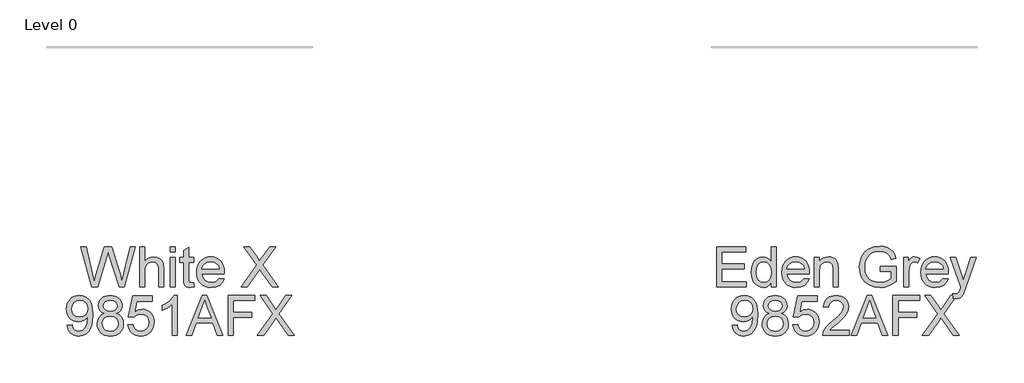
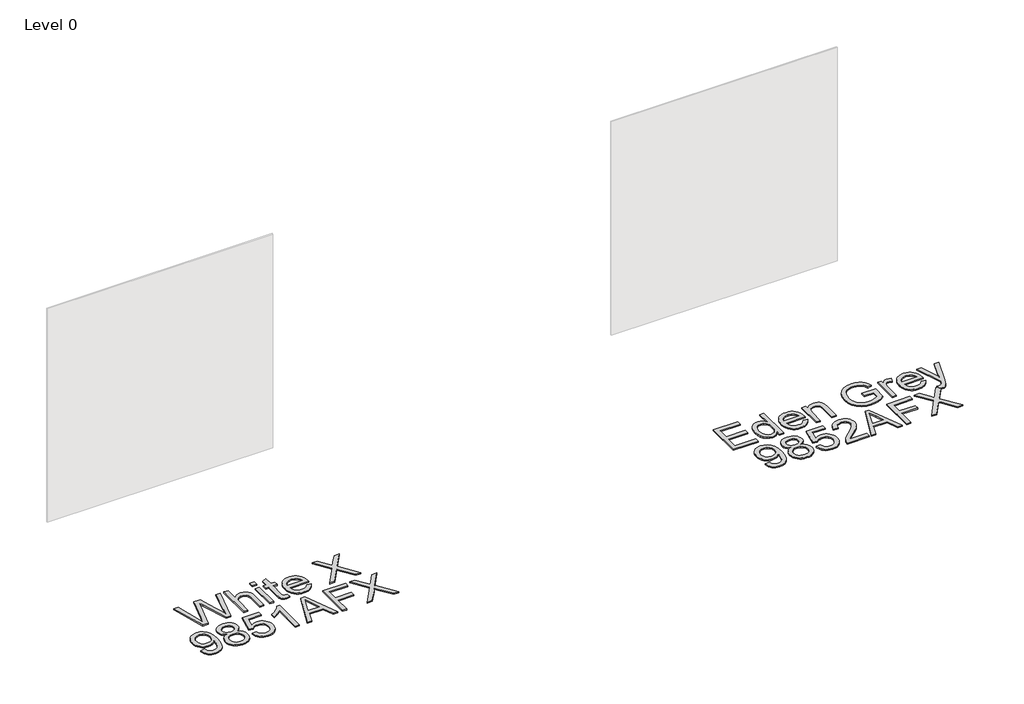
# One storey, part 3 of 10: 2 proxies.
"""IFC4 building model written with IfcOpenShell, lengths in millimetres."""

from ifc_helpers import new_model, si_unit, origin, origin_with_axes, place, context, project, spatial, polyline, outline, extrude, element, save

model = new_model("IFC4")

# Units and contexts
model_context = context("Model", 3, world=origin())
ifc_project = project(units=[si_unit("LENGTHUNIT", "METRE", prefix="MILLI")], contexts=[model_context])

# Site, building, storey
site = spatial("IfcSite", under=ifc_project)
building = spatial("IfcBuilding", under=site)
storey = spatial("IfcBuildingStorey", under=building, Name="Level 0", Elevation=0.0)

# Proxies
placement = place(None, origin())
element("IfcBuildingElementProxy", 1, Name="300mm Arial", ObjectType="300mm Arial", at=placement, inside=storey, context=model_context, shape_type="SweptSolid", body=[
    extrude(outline(polyline([(-10110.1233209, -7002.860494), (-10192.3081586, -6701.4915635), (-10153.4598199, -6701.4915635), (-10105.7823133, -6899.5592297), (-10091.0670335, -6960.7012173), (-10075.3216841, -6906.622564), (-10015.5776481, -6701.4915635), (-9959.5860084, -6701.4915635), (-9916.175933, -6850.189466), (-9897.5794981, -6905.3717653), (-9883.8758938, -6960.7012173), (-9869.6020724, -6901.3250633), (-9821.4831074, -6701.4915635), (-9782.6347688, -6701.4915635), (-9864.8931829, -7002.860494), (-9905.1394731, -7002.860494), (-9977.391497, -6770.359073), (-9987.4714637, -6737.9118811), (-9998.8022291, -6776.9809489), (-10064.6531063, -7002.860494), (-10110.1233209, -7002.860494)])), origin_with_axes(), (0.0, 0.0, 1.0), 10.0),
    extrude(outline(polyline([(-9749.672542, -7002.860494), (-9749.672542, -6701.4915635), (-9712.0014257, -6701.4915635), (-9712.0014257, -6812.2976205), (-9698.1644641, -6796.7821973), (-9682.6260484, -6785.6997522), (-9665.3861784, -6779.0502852), (-9646.4448541, -6776.8337961), (-9623.6913527, -6779.2526203), (-9604.1384247, -6786.5090926), (-9588.7425632, -6798.0329961), (-9578.4602614, -6813.2541137), (-9572.66612, -6834.1682051), (-9570.7347395, -6862.7710302), (-9570.7347395, -7002.860494), (-9608.4058558, -7002.860494), (-9608.4058558, -6866.6705794), (-9611.4040941, -6843.0893435), (-9620.3988089, -6826.9393239), (-9634.8933595, -6817.6135153), (-9654.3911052, -6814.5049125), (-9670.3111986, -6816.6018398), (-9685.2564046, -6822.8926219), (-9697.6356338, -6832.7702535), (-9705.8577964, -6845.6277292), (-9710.4655184, -6862.7158479), (-9712.0014257, -6885.2854083), (-9712.0014257, -7002.860494), (-9749.672542, -7002.860494)])), origin_with_axes(), (0.0, 0.0, 1.0), 10.0),
    extrude(outline(polyline([(-9518.9369546, -6739.1626798), (-9518.9369546, -6701.4915635), (-9481.2658383, -6701.4915635), (-9481.2658383, -6739.1626798), (-9518.9369546, -6739.1626798)])), origin_with_axes(), (0.0, 0.0, 1.0), 10.0),
    extrude(outline(polyline([(-9518.9369546, -7002.860494), (-9518.9369546, -6781.5426857), (-9481.2658383, -6781.5426857), (-9481.2658383, -7002.860494), (-9518.9369546, -7002.860494)])), origin_with_axes(), (0.0, 0.0, 1.0), 10.0),
    extrude(outline(polyline([(-9344.7080417, -6971.4433716), (-9339.9991522, -7003.96414), (-9368.178913, -7007.5693835), (-9386.2603131, -7006.005885), (-9399.7431882, -7001.3153896), (-9409.2713319, -6994.0865084), (-9415.4885376, -6984.9078526), (-9418.9098401, -6969.1441091), (-9420.0502743, -6942.1599648), (-9420.0502743, -6819.213802), (-9448.3036115, -6819.213802), (-9448.3036115, -6781.5426857), (-9420.0502743, -6781.5426857), (-9420.0502743, -6727.758338), (-9382.379158, -6705.6118419), (-9382.379158, -6781.5426857), (-9344.7080417, -6781.5426857), (-9344.7080417, -6819.213802), (-9382.379158, -6819.213802), (-9382.379158, -6941.0563188), (-9380.3925952, -6960.4804881), (-9373.9546603, -6967.3598814), (-9361.1155787, -6969.8982672), (-9344.7080417, -6971.4433716)])), origin_with_axes(), (0.0, 0.0, 1.0), 10.0),
    extrude(outline(polyline([(-9152.085029, -6936.9360404), (-9115.1496767, -6941.64493), (-9128.4578079, -6969.4752029), (-9149.6937961, -6990.2789297), (-9178.3793946, -7003.2467701), (-9214.036357, -7007.5693835), (-9237.4106593, -7005.7046817), (-9258.2373787, -7000.1105761), (-9276.5165154, -6990.7870668), (-9292.2480692, -6977.7341537), (-9304.8986113, -6961.3151204), (-9313.9347128, -6941.8932503), (-9319.3563737, -6919.4685435), (-9321.163594, -6894.0409998), (-9319.3379796, -6867.7512327), (-9313.8611364, -6844.5792656), (-9304.7330644, -6824.5250983), (-9291.9537636, -6807.5887309), (-9276.2635965, -6794.133447), (-9258.4029256, -6784.5225298), (-9238.371751, -6778.7559796), (-9216.1700726, -6776.8337961), (-9194.6834648, -6778.751381), (-9175.2523977, -6784.5041357), (-9157.8768712, -6794.0920602), (-9142.5568853, -6807.5151545), (-9130.0511968, -6824.4147337), (-9121.1185621, -6844.4321128), (-9115.7589813, -6867.5672917), (-9113.9724543, -6893.8202706), (-9114.1931835, -6903.9738137), (-9283.4924777, -6903.9738137), (-9276.9717693, -6932.1719686), (-9261.8242282, -6952.902119), (-9239.9628406, -6965.6492302), (-9213.300593, -6969.8982672), (-9193.2510243, -6967.9300985), (-9176.3652407, -6962.0255925), (-9162.6432423, -6951.8168672), (-9152.085029, -6936.9360404)]), holes=[polyline([(-9283.4924777, -6866.3026974), (-9151.6435706, -6866.3026974), (-9156.7387363, -6846.4002814), (-9166.7267324, -6832.1632482), (-9188.6892875, -6818.9194964), (-9216.3172254, -6814.5049125), (-9241.7102801, -6818.0273826), (-9262.707145, -6828.5947929), (-9277.3028631, -6845.0667092), (-9283.4924777, -6866.3026974)])]), origin_with_axes(), (0.0, 0.0, 1.0), 10.0),
    extrude(outline(polyline([(-8986.8324368, -7002.860494), (-8870.6553027, -6838.6379713), (-8967.9968786, -6701.4915635), (-8922.8209696, -6701.4915635), (-8868.0065523, -6778.6732061), (-8849.5388762, -6808.7659533), (-8827.9074149, -6778.1581713), (-8773.6816088, -6701.4915635), (-8727.8435122, -6701.4915635), (-8825.1850881, -6839.0794297), (-8709.007954, -7002.860494), (-8754.183863, -7002.860494), (-8831.5862348, -6893.6731178), (-8847.6994662, -6871.0115869), (-8865.4313784, -6895.8804098), (-8940.9943402, -7002.860494), (-8986.8324368, -7002.860494)])), origin_with_axes(), (0.0, 0.0, 1.0), 10.0),
    extrude(outline(polyline([(-10295.9037284, -7293.4427149), (-10258.2326121, -7288.7338254), (-10251.7946772, -7310.1169663), (-10241.3100403, -7324.6758963), (-10227.0362189, -7333.0360146), (-10209.2307304, -7335.8227207), (-10193.2554547, -7334.029296), (-10178.733313, -7328.6490218), (-10166.6667835, -7320.2705094), (-10158.0583448, -7309.4823699), (-10145.734298, -7276.7408723), (-10140.2896445, -7233.0364913), (-10140.5103737, -7225.6788514), (-10153.5609874, -7241.6081418), (-10170.6399091, -7254.2264942), (-10190.5147339, -7262.4486568), (-10211.9530571, -7265.1893777), (-10229.8482169, -7263.5155146), (-10246.3040384, -7258.4939254), (-10261.3205216, -7250.12461), (-10274.8976665, -7238.4075684), (-10286.1479578, -7223.9544045), (-10294.1838801, -7207.3767221), (-10299.0054335, -7188.6745212), (-10300.612618, -7167.8478018), (-10298.9272586, -7146.326705), (-10293.8711804, -7127.0129003), (-10285.4443835, -7109.9063875), (-10273.6468677, -7095.0071667), (-10259.3109662, -7082.9360387), (-10243.269012, -7074.3138045), (-10225.521005, -7069.1404639), (-10206.0669452, -7067.4160171), (-10177.9699578, -7071.3523544), (-10152.3929621, -7083.1613665), (-10131.0006241, -7102.254442), (-10115.4576098, -7128.0429699), (-10105.9938455, -7163.6907352), (-10102.8392574, -7212.3615232), (-10105.9846484, -7263.96617), (-10115.4208216, -7303.8537754), (-10131.0650034, -7333.8269609), (-10152.8344205, -7355.6883485), (-10179.7909737, -7369.0424649), (-10210.9965639, -7373.4938371), (-10243.2046326, -7368.2423216), (-10268.90119, -7352.4877751), (-10286.8722254, -7327.2234791), (-10295.9037284, -7293.4427149)]), holes=[polyline([(-10140.5103737, -7166.964885), (-10144.5754697, -7141.4338745), (-10156.7707578, -7121.788976), (-10175.6982865, -7109.262594), (-10199.9601041, -7105.0871334), (-10225.1232326, -7109.5844908), (-10245.2831659, -7123.0765629), (-10258.5269177, -7143.7239399), (-10262.9415017, -7169.6872117), (-10258.766041, -7192.964945), (-10246.2396591, -7211.4418182), (-10226.5763664, -7223.4991506), (-10200.9901737, -7227.5182614), (-10176.9214941, -7223.4991506), (-10157.54331, -7211.4418182), (-10144.7686078, -7192.2843633), (-10140.5103737, -7166.964885)])]), origin_with_axes(), (0.0, 0.0, 1.0), 10.0),
    extrude(outline(polyline([(-10014.9890369, -7202.7965913), (-10035.1581673, -7192.8637774), (-10049.3124271, -7179.3992964), (-10057.6725454, -7162.6790597), (-10060.4592515, -7142.9789789), (-10058.9417383, -7127.6153071), (-10054.3891986, -7113.5300252), (-10046.8016324, -7100.7231332), (-10036.1790398, -7089.1946312), (-10023.031857, -7079.6664875), (-10007.8705203, -7072.8606706), (-9971.5053851, -7067.4160171), (-9934.9195207, -7072.9894293), (-9919.592637, -7079.9561946), (-9906.2431191, -7089.709666), (-9895.4273885, -7101.4634957), (-9887.7018666, -7114.4313361), (-9883.0665534, -7128.613187), (-9881.5214491, -7144.0090485), (-9884.271367, -7163.0745329), (-9892.5211207, -7179.509661), (-9906.3626808, -7192.8913686), (-9925.8880177, -7202.7965913), (-9902.7022549, -7214.7435591), (-9885.8256684, -7232.3375155), (-9875.5341696, -7254.732332), (-9872.10367, -7281.0818799), (-9873.8051242, -7299.8714528), (-9878.9094869, -7317.0975272), (-9887.416758, -7332.7601031), (-9899.3269376, -7346.8591806), (-9914.0146263, -7358.5118428), (-9930.8544246, -7366.8351729), (-9949.8463326, -7371.829171), (-9970.9903503, -7373.4938371), (-9992.134368, -7371.8222732), (-10011.126276, -7366.8075818), (-10027.9660743, -7358.4497627), (-10042.6537629, -7346.748816), (-10054.5639425, -7332.5508703), (-10063.0712137, -7316.702054), (-10068.1755764, -7299.2023674), (-10069.8770306, -7280.0518103), (-10066.3085752, -7252.6813898), (-10055.6032092, -7230.1670117), (-10038.3127554, -7213.2812282), (-10014.9890369, -7202.7965913)]), holes=[polyline([(-10022.7881352, -7144.0826249), (-10019.4496061, -7160.52695), (-10009.4340188, -7173.6603373), (-9993.0356788, -7182.268776), (-9970.5488919, -7185.1382555), (-9948.5863368, -7182.2871701), (-9932.4363172, -7173.7339137), (-9922.5035033, -7161.0419848), (-9919.1925654, -7145.774882), (-9922.6138679, -7129.9283651), (-9932.8777756, -7116.822569), (-9949.2485244, -7108.0209923), (-9970.9903503, -7105.0871334), (-9992.8701319, -7107.9566129), (-10009.2132896, -7116.5650516), (-10019.3944238, -7129.1834041), (-10022.7881352, -7144.0826249)]), polyline([(-10032.2059143, -7278.7274351), (-10025.9151322, -7307.0911369), (-10017.2055259, -7319.2588339), (-10003.6582715, -7328.317928), (-9987.4346755, -7333.9465226), (-9970.6960447, -7335.8227207), (-9945.0546696, -7331.8771864), (-9925.8144413, -7320.0405832), (-9913.7847, -7302.1155329), (-9909.7747863, -7279.9046575), (-9913.9134587, -7257.316703), (-9926.3294761, -7238.9961796), (-9946.0111628, -7226.8560738), (-9971.9468435, -7222.8093718), (-9997.2295336, -7226.8008915), (-10016.2766239, -7238.7754504), (-10028.2235917, -7256.7464859), (-10032.2059143, -7278.7274351)])]), origin_with_axes(), (0.0, 0.0, 1.0), 10.0),
    extrude(outline(polyline([(-9839.1414432, -7288.7338254), (-9801.4703269, -7284.0249358), (-9794.5541454, -7306.6404815), (-9782.487616, -7322.8364863), (-9765.3259209, -7332.5761621), (-9743.1242425, -7335.8227207), (-9716.121704, -7331.3069693), (-9695.8881943, -7317.7597148), (-9683.2514478, -7296.7444558), (-9679.0391989, -7269.8246908), (-9682.9847333, -7244.4776213), (-9694.8213365, -7225.0902402), (-9714.640979, -7212.7845875), (-9742.5356313, -7208.6827032), (-9760.8101694, -7210.3197781), (-9775.6082226, -7215.2310027), (-9796.7614374, -7232.2271509), (-9834.4325537, -7227.5182614), (-9801.4703269, -7072.1249066), (-9655.4947512, -7072.1249066), (-9655.4947512, -7109.7960229), (-9771.0096977, -7109.7960229), (-9787.1229291, -7192.790201), (-9760.2123611, -7176.4562404), (-9732.0142062, -7171.0115869), (-9713.668391, -7172.6992456), (-9696.8170963, -7177.7622215), (-9681.4603223, -7186.2005148), (-9667.5980689, -7198.0141254), (-9656.1224499, -7212.4810848), (-9647.9255792, -7228.8794248), (-9643.0074567, -7247.2091452), (-9641.3680826, -7267.470246), (-9647.2725886, -7305.1413624), (-9654.6532212, -7321.9351754), (-9664.9861067, -7337.3678251), (-9680.6394856, -7353.1729553), (-9698.9048267, -7364.4623341), (-9719.7821299, -7371.2359613), (-9743.2713953, -7373.4938371), (-9780.2711269, -7367.6904986), (-9795.9497977, -7360.4363255), (-9809.7476718, -7350.2804832), (-9821.2278893, -7337.7288093), (-9829.9535904, -7323.2871418), (-9839.1414432, -7288.7338254)])), origin_with_axes(), (0.0, 0.0, 1.0), 10.0),
    extrude(outline(polyline([(-9467.1391697, -7368.7849475), (-9504.810286, -7368.7849475), (-9504.810286, -7133.9290818), (-9540.4948395, -7159.3497277), (-9580.1525186, -7178.3692268), (-9580.1525186, -7142.7582497), (-9550.5656091, -7126.6634124), (-9524.9334311, -7107.5151545), (-9504.7275125, -7087.1528861), (-9491.4193814, -7067.4160171), (-9467.1391697, -7067.4160171), (-9467.1391697, -7368.7849475)])), origin_with_axes(), (0.0, 0.0, 1.0), 10.0),
    extrude(outline(polyline([(-9398.6395422, -7368.7849475), (-9278.3421298, -7067.4160171), (-9246.2628198, -7067.4160171), (-9125.9654074, -7368.7849475), (-9165.7702392, -7368.7849475), (-9200.2775704, -7274.6071568), (-9324.4009556, -7274.6071568), (-9358.8347103, -7368.7849475), (-9398.6395422, -7368.7849475)]), holes=[polyline([(-9310.5685925, -7236.9360404), (-9214.036357, -7236.9360404), (-9241.1860483, -7162.8446066), (-9262.3024748, -7105.0871334), (-9281.0644565, -7156.3698835), (-9310.5685925, -7236.9360404)])]), origin_with_axes(), (0.0, 0.0, 1.0), 10.0),
    extrude(outline(polyline([(-9085.7191171, -7368.7849475), (-9085.7191171, -7067.4160171), (-8883.2368669, -7067.4160171), (-8883.2368669, -7105.0871334), (-9048.0480008, -7105.0871334), (-9048.0480008, -7194.5560346), (-8906.7813146, -7194.5560346), (-8906.7813146, -7232.2271509), (-9048.0480008, -7232.2271509), (-9048.0480008, -7368.7849475), (-9085.7191171, -7368.7849475)])), origin_with_axes(), (0.0, 0.0, 1.0), 10.0),
    extrude(outline(polyline([(-8864.4013088, -7368.7849475), (-8748.2241747, -7204.5624249), (-8845.5657506, -7067.4160171), (-8800.3898416, -7067.4160171), (-8745.5754244, -7144.5976597), (-8727.1077482, -7174.6904069), (-8705.4762869, -7144.0826249), (-8651.2504808, -7067.4160171), (-8605.4123842, -7067.4160171), (-8702.7539601, -7205.0038833), (-8586.576826, -7368.7849475), (-8631.752735, -7368.7849475), (-8709.1551068, -7259.5975713), (-8725.2683382, -7236.9360404), (-8743.0002504, -7261.8048633), (-8818.5632122, -7368.7849475), (-8864.4013088, -7368.7849475)])), origin_with_axes(), (0.0, 0.0, 1.0), 10.0),
])
element("IfcBuildingElementProxy", 2, Name="300mm Arial", ObjectType="300mm Arial", at=placement, inside=storey, context=model_context, shape_type="SweptSolid", body=[
    extrude(outline(polyline([(-5411.2715221, -7002.860494), (-5411.2715221, -6701.4915635), (-5194.6626034, -6701.4915635), (-5194.6626034, -6739.1626798), (-5373.6004058, -6739.1626798), (-5373.6004058, -6828.6315811), (-5204.0803824, -6828.6315811), (-5204.0803824, -6866.3026974), (-5373.6004058, -6866.3026974), (-5373.6004058, -6965.1893777), (-5189.9537138, -6965.1893777), (-5189.9537138, -7002.860494), (-5411.2715221, -7002.860494)])), origin_with_axes(), (0.0, 0.0, 1.0), 10.0),
    extrude(outline(polyline([(-5001.5981323, -7002.860494), (-5001.5981323, -6967.3230932), (-5012.8691169, -6984.9308452), (-5026.5221375, -6997.507811), (-5042.5571939, -7005.0539904), (-5060.9742863, -7007.5693835), (-5085.3280744, -7003.9273518), (-5107.6217233, -6993.0012565), (-5126.4940696, -6975.5544529), (-5140.5839501, -6952.350296), (-5149.3579356, -6924.3268851), (-5152.2825975, -6892.422319), (-5149.5878619, -6860.9132261), (-5141.503655, -6832.4575538), (-5128.039174, -6808.6739828), (-5109.2036159, -6791.181194), (-5086.4225233, -6780.4206456), (-5061.1214391, -6776.8337961), (-5042.6905511, -6779.3997731), (-5026.3933788, -6787.0977038), (-5012.5794098, -6798.8975188), (-5001.5981323, -6813.7691485), (-5001.5981323, -6701.4915635), (-4963.927016, -6701.4915635), (-4963.927016, -7002.860494), (-5001.5981323, -7002.860494)]), holes=[polyline([(-5114.6114812, -6892.2751662), (-5110.3624442, -6926.350236), (-5097.615333, -6950.5844625), (-5079.0924746, -6965.069816), (-5057.5161956, -6969.8982672), (-5035.9491136, -6965.2905452), (-5017.8953047, -6951.4673793), (-5005.6724254, -6928.1712519), (-5001.5981323, -6895.1446458), (-5005.7460018, -6859.037028), (-5018.1896103, -6834.0026582), (-5036.7032717, -6819.3793489), (-5059.0612999, -6814.5049125), (-5080.8583081, -6819.1862108), (-5098.718979, -6833.230106), (-5110.6383557, -6857.3539678), (-5114.6114812, -6892.2751662)])]), origin_with_axes(), (0.0, 0.0, 1.0), 10.0),
    extrude(outline(polyline([(-4752.4684452, -6936.9360404), (-4715.5330928, -6941.64493), (-4728.841224, -6969.4752029), (-4750.0772122, -6990.2789297), (-4778.7628108, -7003.2467701), (-4814.4197731, -7007.5693835), (-4837.7940754, -7005.7046817), (-4858.6207949, -7000.1105761), (-4876.8999315, -6990.7870668), (-4892.6314853, -6977.7341537), (-4905.2820274, -6961.3151204), (-4914.3181289, -6941.8932503), (-4919.7397898, -6919.4685435), (-4921.5470101, -6894.0409998), (-4919.7213957, -6867.7512327), (-4914.2445525, -6844.5792656), (-4905.1164805, -6824.5250983), (-4892.3371797, -6807.5887309), (-4876.6470126, -6794.133447), (-4858.7863418, -6784.5225298), (-4838.7551671, -6778.7559796), (-4816.5534887, -6776.8337961), (-4795.0668809, -6778.751381), (-4775.6358138, -6784.5041357), (-4758.2602873, -6794.0920602), (-4742.9403015, -6807.5151545), (-4730.4346129, -6824.4147337), (-4721.5019782, -6844.4321128), (-4716.1423974, -6867.5672917), (-4714.3558705, -6893.8202706), (-4714.5765996, -6903.9738137), (-4883.8758938, -6903.9738137), (-4877.3551855, -6932.1719686), (-4862.2076443, -6952.902119), (-4840.3462567, -6965.6492302), (-4813.6840091, -6969.8982672), (-4793.6344404, -6967.9300985), (-4776.7486568, -6962.0255925), (-4763.0266584, -6951.8168672), (-4752.4684452, -6936.9360404)]), holes=[polyline([(-4883.8758938, -6866.3026974), (-4752.0269868, -6866.3026974), (-4757.1221524, -6846.4002814), (-4767.1101486, -6832.1632482), (-4789.0727037, -6818.9194964), (-4816.7006415, -6814.5049125), (-4842.0936962, -6818.0273826), (-4863.0905611, -6828.5947929), (-4877.6862793, -6845.0667092), (-4883.8758938, -6866.3026974)])]), origin_with_axes(), (0.0, 0.0, 1.0), 10.0),
    extrude(outline(polyline([(-4676.6847541, -7002.860494), (-4676.6847541, -6781.5426857), (-4639.0136378, -6781.5426857), (-4639.0136378, -6812.4447733), (-4625.9262359, -6796.8649708), (-4610.2084776, -6785.7365404), (-4591.8603631, -6779.0594822), (-4570.8818923, -6776.8337961), (-4552.3130486, -6778.6272209), (-4535.3077034, -6784.0074951), (-4521.1258525, -6792.303234), (-4511.0274917, -6802.8430532), (-4499.7335145, -6830.5445674), (-4497.7469517, -6866.964885), (-4497.7469517, -7002.860494), (-4535.418068, -7002.860494), (-4535.418068, -6872.0416565), (-4539.7590755, -6838.7115477), (-4545.7647491, -6828.7879309), (-4555.0997547, -6821.0900002), (-4567.0651166, -6816.1511844), (-4580.961859, -6814.5049125), (-4603.0255817, -6818.2021265), (-4621.8335487, -6829.2937687), (-4629.3498377, -6838.3482643), (-4634.7186155, -6850.7228949), (-4639.0136378, -6885.4325611), (-4639.0136378, -7002.860494), (-4676.6847541, -7002.860494)])), origin_with_axes(), (0.0, 0.0, 1.0), 10.0),
    extrude(outline(polyline([(-4182.2513526, -6885.1382555), (-4182.2513526, -6847.4671392), (-4059.8202246, -6847.4671392), (-4059.8202246, -6960.1126061), (-4089.572681, -6980.8059684), (-4120.2632364, -6995.6500069), (-4151.8183146, -7004.5895394), (-4184.164339, -7007.5693835), (-4226.4247832, -7002.8329028), (-4264.6201313, -6988.6234608), (-4296.3499534, -6965.437698), (-4319.2138194, -6933.7722553), (-4333.0369854, -6895.7884393), (-4337.6447074, -6853.6475567), (-4333.0553795, -6811.2031715), (-4319.2873958, -6771.7202364), (-4296.9109735, -6738.6016598), (-4266.4963295, -6715.2503502), (-4229.4506126, -6701.399593), (-4187.1809714, -6696.782674), (-4156.1501251, -6699.4590155), (-4128.2462757, -6707.4880401), (-4104.7478133, -6720.2903335), (-4086.9331277, -6737.2864817), (-4073.7537552, -6759.295022), (-4064.1612322, -6787.134492), (-4098.8892925, -6796.9201531), (-4106.6424056, -6777.0637224), (-4116.0693817, -6762.0817281), (-4128.5405813, -6750.7877509), (-4145.4263649, -6741.9953712), (-4165.5587071, -6736.3391855), (-4187.7695826, -6734.4537903), (-4213.7696426, -6736.4863383), (-4235.9989121, -6742.5839824), (-4254.3746178, -6751.9833674), (-4268.8139861, -6763.9211381), (-4288.2013672, -6792.9470275), (-4297.0305351, -6821.3843058), (-4299.9735911, -6852.1024524), (-4296.4327269, -6888.1272967), (-4285.8101343, -6917.7693885), (-4268.42771, -6940.8171955), (-4244.6073508, -6957.0591856), (-4216.7310926, -6966.6884968), (-4187.1809714, -6969.8982672), (-4161.0889409, -6967.4794431), (-4135.6407038, -6960.2229707), (-4113.540193, -6950.2257775), (-4097.4913409, -6939.5847908), (-4097.4913409, -6885.1382555), (-4182.2513526, -6885.1382555)])), origin_with_axes(), (0.0, 0.0, 1.0), 10.0),
    extrude(outline(polyline([(-4003.3135502, -7002.860494), (-4003.3135502, -6781.5426857), (-3970.3513234, -6781.5426857), (-3970.3513234, -6814.2841833), (-3958.1744294, -6795.3014723), (-3946.9540285, -6784.1178596), (-3935.6968395, -6778.654812), (-3923.4095808, -6776.8337961), (-3904.6475991, -6779.7400639), (-3885.5913117, -6788.4588672), (-3898.172876, -6822.2304343), (-3911.4166278, -6816.4362929), (-3924.6603796, -6814.5049125), (-3935.9083716, -6816.3627165), (-3945.9607471, -6821.9361288), (-3954.0817422, -6830.8020848), (-3959.5355927, -6842.5375205), (-3964.1157236, -6863.5803706), (-3965.6424339, -6886.5362071), (-3965.6424339, -7002.860494), (-4003.3135502, -7002.860494)])), origin_with_axes(), (0.0, 0.0, 1.0), 10.0),
    extrude(outline(polyline([(-3707.0949677, -6936.9360404), (-3670.1596153, -6941.64493), (-3683.4677465, -6969.4752029), (-3704.7037347, -6990.2789297), (-3733.3893333, -7003.2467701), (-3769.0462956, -7007.5693835), (-3792.4205979, -7005.7046817), (-3813.2473174, -7000.1105761), (-3831.526454, -6990.7870668), (-3847.2580078, -6977.7341537), (-3859.9085499, -6961.3151204), (-3868.9446514, -6941.8932503), (-3874.3663123, -6919.4685435), (-3876.1735326, -6894.0409998), (-3874.3479182, -6867.7512327), (-3868.871075, -6844.5792656), (-3859.743003, -6824.5250983), (-3846.9637022, -6807.5887309), (-3831.2735351, -6794.133447), (-3813.4128643, -6784.5225298), (-3793.3816896, -6778.7559796), (-3771.1800112, -6776.8337961), (-3749.6934034, -6778.751381), (-3730.2623363, -6784.5041357), (-3712.8868098, -6794.0920602), (-3697.566824, -6807.5151545), (-3685.0611354, -6824.4147337), (-3676.1285007, -6844.4321128), (-3670.7689199, -6867.5672917), (-3668.982393, -6893.8202706), (-3669.2031222, -6903.9738137), (-3838.5024163, -6903.9738137), (-3831.981708, -6932.1719686), (-3816.8341668, -6952.902119), (-3794.9727793, -6965.6492302), (-3768.3105317, -6969.8982672), (-3748.2609629, -6967.9300985), (-3731.3751793, -6962.0255925), (-3717.6531809, -6951.8168672), (-3707.0949677, -6936.9360404)]), holes=[polyline([(-3838.5024163, -6866.3026974), (-3706.6535093, -6866.3026974), (-3711.7486749, -6846.4002814), (-3721.7366711, -6832.1632482), (-3743.6992262, -6818.9194964), (-3771.327164, -6814.5049125), (-3796.7202187, -6818.0273826), (-3817.7170836, -6828.5947929), (-3832.3128018, -6845.0667092), (-3838.5024163, -6866.3026974)])]), origin_with_axes(), (0.0, 0.0, 1.0), 10.0),
    extrude(outline(polyline([(-3631.3112766, -7087.6205057), (-3636.0201662, -7051.3473409), (-3616.8903024, -7054.6582789), (-3599.0112375, -7050.5012124), (-3588.048354, -7038.9129295), (-3577.7476582, -7011.1746271), (-3574.8046022, -7002.0511536), (-3654.8557243, -6781.5426857), (-3615.1244689, -6781.5426857), (-3572.6708866, -6904.4152721), (-3557.8820304, -6953.5643066), (-3543.0931742, -6910.1542312), (-3499.4623696, -6781.5426857), (-3460.0254197, -6781.5426857), (-3537.0599095, -7008.1579947), (-3557.07269, -7057.3070293), (-3567.3182036, -7072.9971964), (-3578.9248805, -7083.8681093), (-3592.4077557, -7090.2140737), (-3608.2818638, -7092.3293952), (-3631.3112766, -7087.6205057)])), origin_with_axes(), (0.0, 0.0, 1.0), 10.0),
    extrude(outline(polyline([(-5295.9037284, -7293.4427149), (-5258.2326121, -7288.7338254), (-5251.7946772, -7310.1169663), (-5241.3100403, -7324.6758963), (-5227.0362189, -7333.0360146), (-5209.2307304, -7335.8227207), (-5193.2554547, -7334.029296), (-5178.733313, -7328.6490218), (-5166.6667835, -7320.2705094), (-5158.0583448, -7309.4823699), (-5145.734298, -7276.7408723), (-5140.2896445, -7233.0364913), (-5140.5103737, -7225.6788514), (-5153.5609874, -7241.6081418), (-5170.6399091, -7254.2264942), (-5190.5147339, -7262.4486568), (-5211.9530571, -7265.1893777), (-5229.8482169, -7263.5155146), (-5246.3040384, -7258.4939254), (-5261.3205216, -7250.12461), (-5274.8976665, -7238.4075684), (-5286.1479578, -7223.9544045), (-5294.1838801, -7207.3767221), (-5299.0054335, -7188.6745212), (-5300.612618, -7167.8478018), (-5298.9272586, -7146.326705), (-5293.8711804, -7127.0129003), (-5285.4443835, -7109.9063875), (-5273.6468677, -7095.0071667), (-5259.3109662, -7082.9360387), (-5243.269012, -7074.3138045), (-5225.521005, -7069.1404639), (-5206.0669452, -7067.4160171), (-5177.9699578, -7071.3523544), (-5152.3929621, -7083.1613665), (-5131.0006241, -7102.254442), (-5115.4576098, -7128.0429699), (-5105.9938455, -7163.6907352), (-5102.8392574, -7212.3615232), (-5105.9846484, -7263.96617), (-5115.4208216, -7303.8537754), (-5131.0650034, -7333.8269609), (-5152.8344205, -7355.6883485), (-5179.7909737, -7369.0424649), (-5210.9965639, -7373.4938371), (-5243.2046326, -7368.2423216), (-5268.90119, -7352.4877751), (-5286.8722254, -7327.2234791), (-5295.9037284, -7293.4427149)]), holes=[polyline([(-5140.5103737, -7166.964885), (-5144.5754697, -7141.4338745), (-5156.7707578, -7121.788976), (-5175.6982865, -7109.262594), (-5199.9601041, -7105.0871334), (-5225.1232326, -7109.5844908), (-5245.2831659, -7123.0765629), (-5258.5269177, -7143.7239399), (-5262.9415017, -7169.6872117), (-5258.766041, -7192.964945), (-5246.2396591, -7211.4418182), (-5226.5763664, -7223.4991506), (-5200.9901737, -7227.5182614), (-5176.9214941, -7223.4991506), (-5157.54331, -7211.4418182), (-5144.7686078, -7192.2843633), (-5140.5103737, -7166.964885)])]), origin_with_axes(), (0.0, 0.0, 1.0), 10.0),
    extrude(outline(polyline([(-5014.9890369, -7202.7965913), (-5035.1581673, -7192.8637774), (-5049.3124271, -7179.3992964), (-5057.6725454, -7162.6790597), (-5060.4592515, -7142.9789789), (-5058.9417383, -7127.6153071), (-5054.3891986, -7113.5300252), (-5046.8016324, -7100.7231332), (-5036.1790398, -7089.1946312), (-5023.031857, -7079.6664875), (-5007.8705203, -7072.8606706), (-4971.5053851, -7067.4160171), (-4934.9195207, -7072.9894293), (-4919.592637, -7079.9561946), (-4906.2431191, -7089.709666), (-4895.4273885, -7101.4634957), (-4887.7018666, -7114.4313361), (-4883.0665534, -7128.613187), (-4881.5214491, -7144.0090485), (-4884.271367, -7163.0745329), (-4892.5211207, -7179.509661), (-4906.3626808, -7192.8913686), (-4925.8880177, -7202.7965913), (-4902.7022549, -7214.7435591), (-4885.8256684, -7232.3375155), (-4875.5341696, -7254.732332), (-4872.10367, -7281.0818799), (-4873.8051242, -7299.8714528), (-4878.9094869, -7317.0975272), (-4887.416758, -7332.7601031), (-4899.3269376, -7346.8591806), (-4914.0146263, -7358.5118428), (-4930.8544246, -7366.8351729), (-4949.8463326, -7371.829171), (-4970.9903503, -7373.4938371), (-4992.134368, -7371.8222732), (-5011.126276, -7366.8075818), (-5027.9660743, -7358.4497627), (-5042.6537629, -7346.748816), (-5054.5639425, -7332.5508703), (-5063.0712137, -7316.702054), (-5068.1755764, -7299.2023674), (-5069.8770306, -7280.0518103), (-5066.3085752, -7252.6813898), (-5055.6032092, -7230.1670117), (-5038.3127554, -7213.2812282), (-5014.9890369, -7202.7965913)]), holes=[polyline([(-5022.7881352, -7144.0826249), (-5019.4496061, -7160.52695), (-5009.4340188, -7173.6603373), (-4993.0356788, -7182.268776), (-4970.5488919, -7185.1382555), (-4948.5863368, -7182.2871701), (-4932.4363172, -7173.7339137), (-4922.5035033, -7161.0419848), (-4919.1925654, -7145.774882), (-4922.6138679, -7129.9283651), (-4932.8777756, -7116.822569), (-4949.2485244, -7108.0209923), (-4970.9903503, -7105.0871334), (-4992.8701319, -7107.9566129), (-5009.2132896, -7116.5650516), (-5019.3944238, -7129.1834041), (-5022.7881352, -7144.0826249)]), polyline([(-5032.2059143, -7278.7274351), (-5025.9151322, -7307.0911369), (-5017.2055259, -7319.2588339), (-5003.6582715, -7328.317928), (-4987.4346755, -7333.9465226), (-4970.6960447, -7335.8227207), (-4945.0546696, -7331.8771864), (-4925.8144413, -7320.0405832), (-4913.7847, -7302.1155329), (-4909.7747863, -7279.9046575), (-4913.9134587, -7257.316703), (-4926.3294761, -7238.9961796), (-4946.0111628, -7226.8560738), (-4971.9468435, -7222.8093718), (-4997.2295336, -7226.8008915), (-5016.2766239, -7238.7754504), (-5028.2235917, -7256.7464859), (-5032.2059143, -7278.7274351)])]), origin_with_axes(), (0.0, 0.0, 1.0), 10.0),
    extrude(outline(polyline([(-4839.1414432, -7288.7338254), (-4801.4703269, -7284.0249358), (-4794.5541454, -7306.6404815), (-4782.487616, -7322.8364863), (-4765.3259209, -7332.5761621), (-4743.1242425, -7335.8227207), (-4716.121704, -7331.3069693), (-4695.8881943, -7317.7597148), (-4683.2514478, -7296.7444558), (-4679.0391989, -7269.8246908), (-4682.9847333, -7244.4776213), (-4694.8213365, -7225.0902402), (-4714.640979, -7212.7845875), (-4742.5356313, -7208.6827032), (-4760.8101694, -7210.3197781), (-4775.6082226, -7215.2310027), (-4796.7614374, -7232.2271509), (-4834.4325537, -7227.5182614), (-4801.4703269, -7072.1249066), (-4655.4947512, -7072.1249066), (-4655.4947512, -7109.7960229), (-4771.0096977, -7109.7960229), (-4787.1229291, -7192.790201), (-4760.2123611, -7176.4562404), (-4732.0142062, -7171.0115869), (-4713.668391, -7172.6992456), (-4696.8170963, -7177.7622215), (-4681.4603223, -7186.2005148), (-4667.5980689, -7198.0141254), (-4656.1224499, -7212.4810848), (-4647.9255792, -7228.8794248), (-4643.0074567, -7247.2091452), (-4641.3680826, -7267.470246), (-4647.2725886, -7305.1413624), (-4654.6532212, -7321.9351754), (-4664.9861067, -7337.3678251), (-4680.6394856, -7353.1729553), (-4698.9048267, -7364.4623341), (-4719.7821299, -7371.2359613), (-4743.2713953, -7373.4938371), (-4780.2711269, -7367.6904986), (-4795.9497977, -7360.4363255), (-4809.7476718, -7350.2804832), (-4821.2278893, -7337.7288093), (-4829.9535904, -7323.2871418), (-4839.1414432, -7288.7338254)])), origin_with_axes(), (0.0, 0.0, 1.0), 10.0),
    extrude(outline(polyline([(-4415.3413848, -7331.1138312), (-4415.3413848, -7368.7849475), (-4613.1147454, -7368.7849475), (-4609.0680434, -7342.8124787), (-4599.7790231, -7322.5145896), (-4586.1857833, -7302.8237058), (-4566.5224907, -7282.213117), (-4539.0233115, -7259.156113), (-4498.3723511, -7223.0484951), (-4473.9817748, -7196.3954446), (-4461.7864867, -7174.7639833), (-4457.7213906, -7153.7211331), (-4461.5565604, -7134.8579838), (-4473.0620698, -7119.1770138), (-4490.7479967, -7108.6096035), (-4513.1244191, -7105.0871334), (-4536.6228815, -7108.52683), (-4554.8790255, -7118.84592), (-4566.6604464, -7135.2350629), (-4570.7347395, -7156.8849183), (-4608.4058558, -7152.1760288), (-4599.2731853, -7115.7373171), (-4590.7268267, -7101.2013798), (-4579.5271192, -7089.1210548), (-4565.9315802, -7079.6251008), (-4550.1977272, -7072.8422765), (-4512.3150787, -7067.4160171), (-4492.125255, -7068.9243332), (-4474.1565187, -7073.4492818), (-4458.4088701, -7080.9908627), (-4444.882309, -7091.549076), (-4434.0182938, -7104.3421723), (-4426.258283, -7118.5884026), (-4421.6022765, -7134.2877667), (-4420.0502743, -7151.4402648), (-4421.7241374, -7169.4572855), (-4426.7457266, -7187.1616065), (-4435.657668, -7205.1694302), (-4449.0025873, -7224.0969588), (-4470.2753637, -7246.6941104), (-4502.970876, -7275.7108027), (-4546.3073751, -7311.9471793), (-4563.3035232, -7331.1138312), (-4415.3413848, -7331.1138312)])), origin_with_axes(), (0.0, 0.0, 1.0), 10.0),
    extrude(outline(polyline([(-4398.6395422, -7368.7849475), (-4278.3421298, -7067.4160171), (-4246.2628198, -7067.4160171), (-4125.9654074, -7368.7849475), (-4165.7702392, -7368.7849475), (-4200.2775704, -7274.6071568), (-4324.4009556, -7274.6071568), (-4358.8347103, -7368.7849475), (-4398.6395422, -7368.7849475)]), holes=[polyline([(-4310.5685925, -7236.9360404), (-4214.036357, -7236.9360404), (-4241.1860483, -7162.8446066), (-4262.3024748, -7105.0871334), (-4281.0644565, -7156.3698835), (-4310.5685925, -7236.9360404)])]), origin_with_axes(), (0.0, 0.0, 1.0), 10.0),
    extrude(outline(polyline([(-4085.7191171, -7368.7849475), (-4085.7191171, -7067.4160171), (-3883.2368669, -7067.4160171), (-3883.2368669, -7105.0871334), (-4048.0480008, -7105.0871334), (-4048.0480008, -7194.5560346), (-3906.7813146, -7194.5560346), (-3906.7813146, -7232.2271509), (-4048.0480008, -7232.2271509), (-4048.0480008, -7368.7849475), (-4085.7191171, -7368.7849475)])), origin_with_axes(), (0.0, 0.0, 1.0), 10.0),
    extrude(outline(polyline([(-3864.4013088, -7368.7849475), (-3748.2241747, -7204.5624249), (-3845.5657506, -7067.4160171), (-3800.3898416, -7067.4160171), (-3745.5754244, -7144.5976597), (-3727.1077482, -7174.6904069), (-3705.4762869, -7144.0826249), (-3651.2504808, -7067.4160171), (-3605.4123842, -7067.4160171), (-3702.7539601, -7205.0038833), (-3586.576826, -7368.7849475), (-3631.752735, -7368.7849475), (-3709.1551068, -7259.5975713), (-3725.2683382, -7236.9360404), (-3743.0002504, -7261.8048633), (-3818.5632122, -7368.7849475), (-3864.4013088, -7368.7849475)])), origin_with_axes(), (0.0, 0.0, 1.0), 10.0),
])

save(model, "model.ifc")
